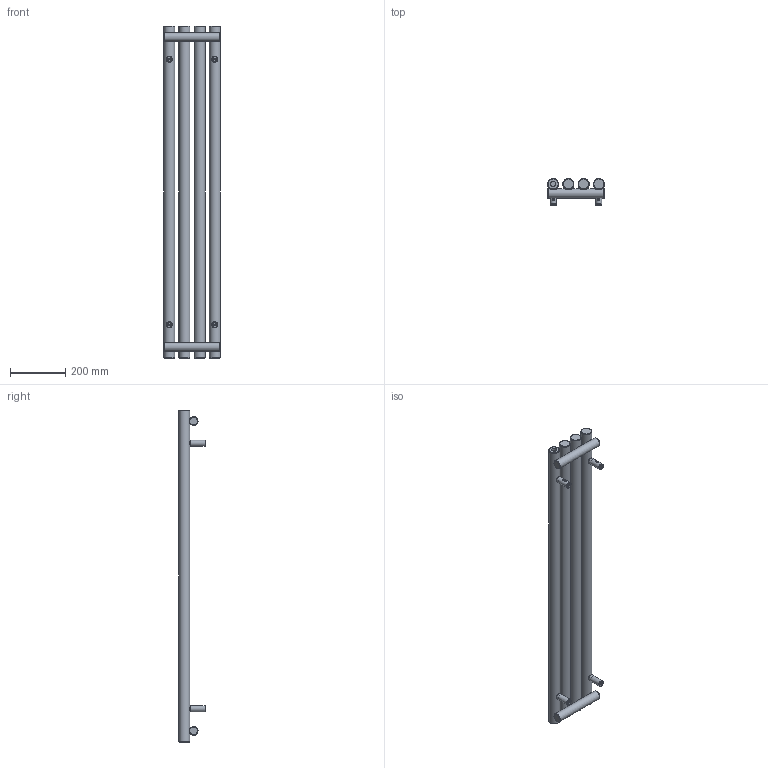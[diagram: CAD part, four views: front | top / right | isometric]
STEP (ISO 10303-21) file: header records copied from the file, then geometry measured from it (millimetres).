
FILE_DESCRIPTION(/* description */ (''),/* implementation_level */ '2;1');
FILE_NAME(/* name */ 'Z:\R\G\P\RGP116 - Grzejniki Geyser\Work\Inventor\Circolo (Rolo V, Rolo H)\ROLO-ROOM\Marketing\Zaokrąglone\WGROR120020-SX-CK-(Z).stp',/* time_stamp */ '2024-01-19T11:47:18+01:00',/* author */ ('NowAd'),/* organization */ (''),/* preprocessor_version */ 'ST-DEVELOPER v17.2',/* originating_system */ 'Autodesk Inventor 2019',/* authorisation */ '');
FILE_SCHEMA (('AUTOMOTIVE_DESIGN { 1 0 10303 214 3 1 1 }','PROCESS_PLANNING_SCHEMA'));
Length unit declared in the file: millimetre
Products named in the file (3): WGROR120020-SX-CK-(Z); PGROR120020-SX-CK-(K); CK-V-fi40 marketing
Assembly tree (5 placements, depth 2):
  WGROR120020-SX-CK-(Z)
    PGROR120020-SX-CK-(K)
    CK-V-fi40 marketing  x4
Bounding box: 205 x 96.5 x 1200 mm (x, y, z)
Volume: 6400824.1 mm3; surface area: 685473.8 mm2
Topology: 5 solids, 5 shells, 312 faces, 789 edges, 528 vertices
Faces by surface type: plane 131, cylinder 73, cone 60, torus 40, bspline 8
Full cylindrical faces by diameter (mm): 4.134 x4, 4.48 x4, 6.4 x4, 10 x4, 12 x4, 15.834 x4, 16 x4, 18.631 x3, 22 x4, 32 x2, 40 x4
Entity records: 5803 total; most frequent: CARTESIAN_POINT 2666, DIRECTION 658, ORIENTED_EDGE 616, EDGE_CURVE 308, AXIS2_PLACEMENT_3D 292, VERTEX_POINT 210, EDGE_LOOP 164, CIRCLE 155
